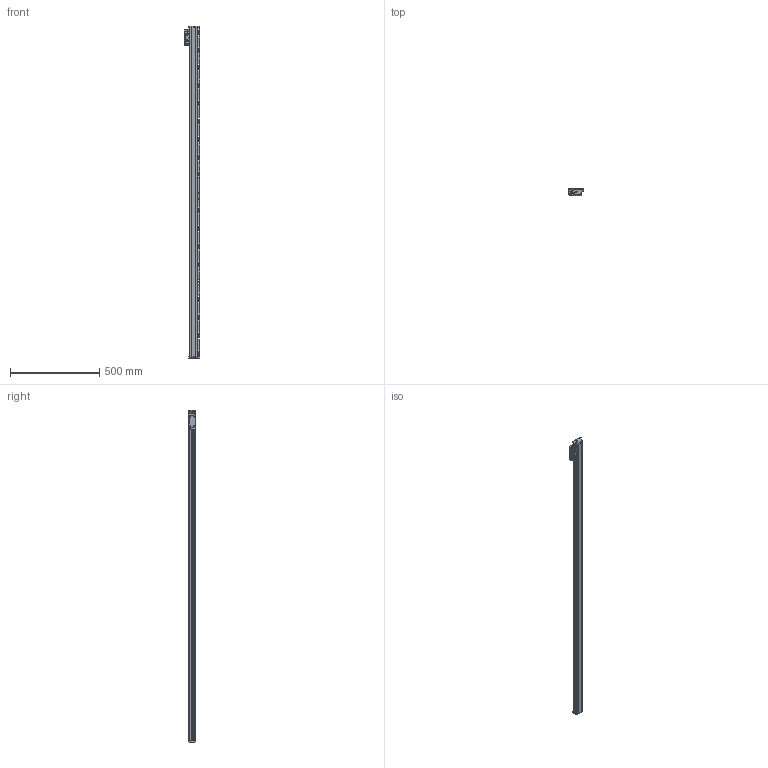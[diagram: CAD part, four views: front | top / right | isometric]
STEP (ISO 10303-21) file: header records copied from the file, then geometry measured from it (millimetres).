
FILE_DESCRIPTION(/* description */ (''),/* implementation_level */ '2;1');
FILE_NAME(/* name */ 'JC21A-1740-1.stp',/* time_stamp */ '2023-12-21T17:00:50+08:00',/* author */ (''),/* organization */ (''),/* preprocessor_version */ 'ST-DEVELOPER v14',/* originating_system */ 'SIEMENS PLM Software NX 8.0',/* authorisation */ '');
FILE_SCHEMA (('CONFIG_CONTROL_DESIGN'));
Length unit declared in the file: millimetre
Products named in the file (1): JC21A-1740-1
Bounding box: 87.5 x 37 x 1861 mm (x, y, z)
Volume: 2921646.3 mm3; surface area: 478041.8 mm2
Topology: 4 solids, 6 shells, 1087 faces, 3228 edges, 2147 vertices
Faces by surface type: plane 680, cylinder 375, cone 22, bspline 8, extrusion 2
Full cylindrical faces by diameter (mm): 2.5 x12, 3.3 x6, 3.7 x4, 4.2 x4, 5 x2, 6 x6, 6.6 x2, 6.8 x20, 7 x2, 13.2 x2
Entity records: 37143 total; most frequent: CARTESIAN_POINT 7563, ORIENTED_EDGE 6220, DIRECTION 6134, EDGE_CURVE 3110, VERTEX_POINT 2111, AXIS2_PLACEMENT_3D 2051, VECTOR 2032, LINE 2030
